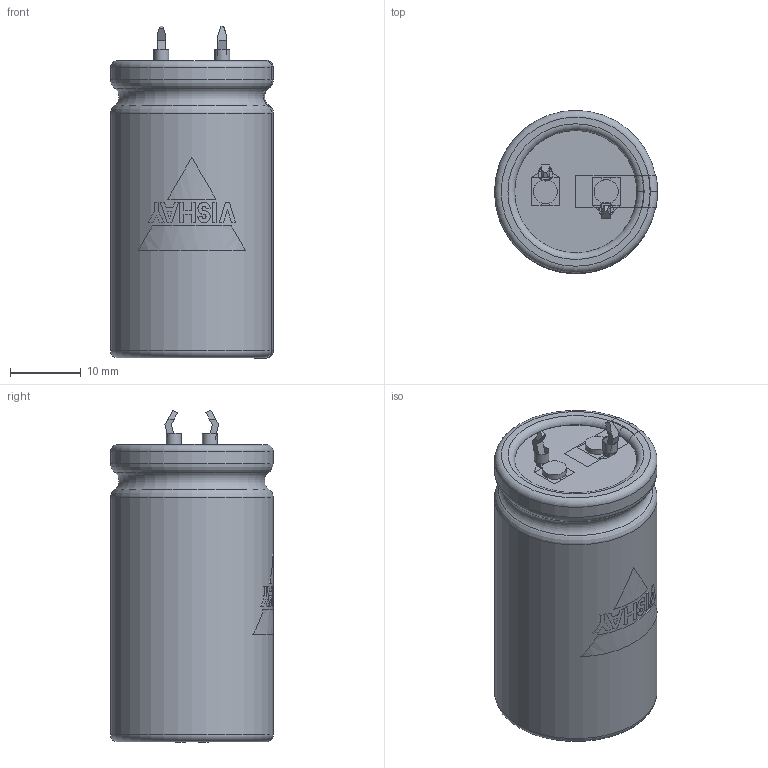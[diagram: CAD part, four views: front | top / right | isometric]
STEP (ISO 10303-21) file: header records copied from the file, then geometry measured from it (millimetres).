
FILE_DESCRIPTION(('FreeCAD Model'),'2;1');
FILE_NAME( 'C:/Users/Gebruiker/Documents/FreeCAD/SnapIn_22x40_2pin_4.0.step', '2020-11-12T19:56:48',('Author'),(''), 'Open CASCADE STEP processor 6.8','FreeCAD','Unknown');
FILE_SCHEMA(('AUTOMOTIVE_DESIGN_CC2 { 1 2 10303 214 -1 1 5 4 }'));
Length unit declared in the file: millimetre
Products named in the file (9): ASSEMBLY; TerminalMin; TerminalPlus; PCBHoles; Disc; BottomInsulation; Can3D; InkMinusBar; InkLogo
Assembly tree (8 placements, depth 2):
  ASSEMBLY
    TerminalMin
    TerminalPlus
    PCBHoles
    Disc
    BottomInsulation
    Can3D
    InkMinusBar
    InkLogo
Bounding box: 23.05 x 23.05 x 46.95 mm (x, y, z)
Volume: 19495.2 mm3; surface area: 8837.6 mm2
Topology: 16 solids, 16 shells, 201 faces, 503 edges, 330 vertices
Faces by surface type: plane 154, cylinder 29, torus 18
Full cylindrical faces by diameter (mm): 2 x2, 2.1 x2, 3.4 x2, 17.3 x1, 18.4 x2, 23 x2
Entity records: 20781 total; most frequent: CARTESIAN_POINT 9553, DIRECTION 1753, ORIENTED_EDGE 1006, PCURVE 1006, DEFINITIONAL_REPRESENTATION 1006, LINE 982, VECTOR 982, EDGE_CURVE 503
